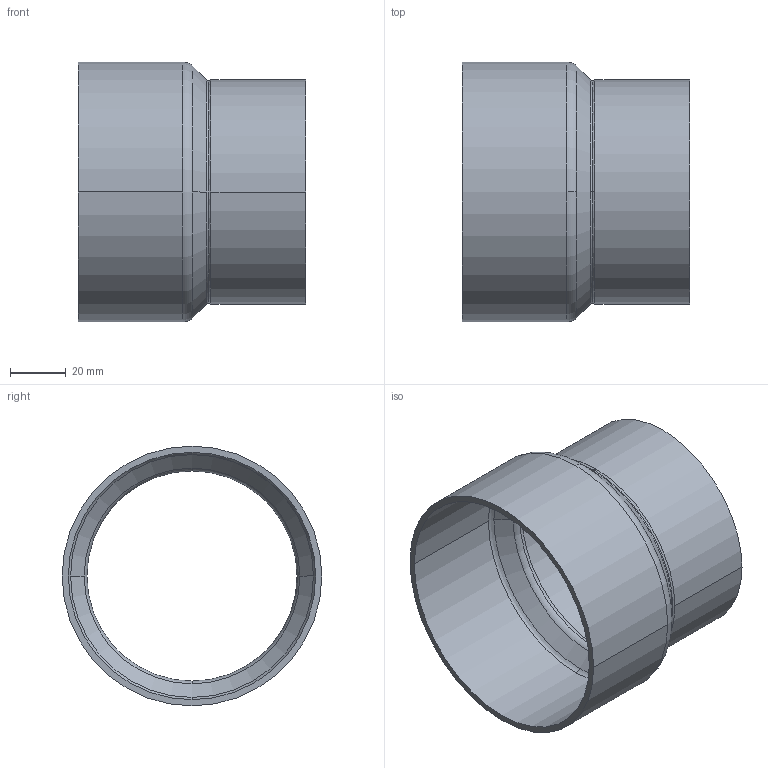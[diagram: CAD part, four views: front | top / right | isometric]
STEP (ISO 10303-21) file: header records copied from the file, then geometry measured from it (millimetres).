
FILE_DESCRIPTION((''),'2;1');
FILE_NAME('G:\Technics\CAD\Bauteile\Serie 15240\152408976.stp','2005-10-21T12:50:57',('boden'),(''),'Autodesk Inventor 8','Autodesk Inventor 8','');
FILE_SCHEMA(('AUTOMOTIVE_DESIGN { 1 0 10303 214 1 1 1 1 }'));
Length unit declared in the file: millimetre
Products named in the file (1): 152408976
Bounding box: 81.8 x 93.3 x 93.3 mm (x, y, z)
Volume: 49502 mm3; surface area: 46175.2 mm2
Topology: 1 solids, 1 shells, 26 faces, 68 edges, 44 vertices
Faces by surface type: cylinder 8, torus 6, bspline 6, cone 4, plane 2
Entity records: 1103 total; most frequent: CARTESIAN_POINT 403, DIRECTION 166, ORIENTED_EDGE 136, AXIS2_PLACEMENT_3D 77, EDGE_CURVE 68, CIRCLE 56, VERTEX_POINT 44, EDGE_LOOP 28
